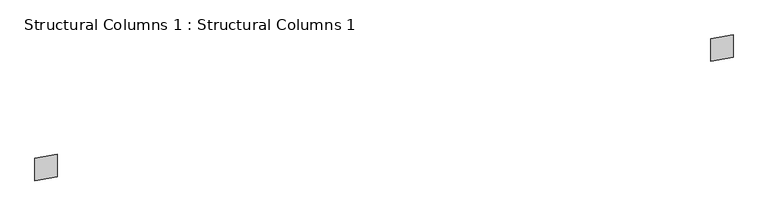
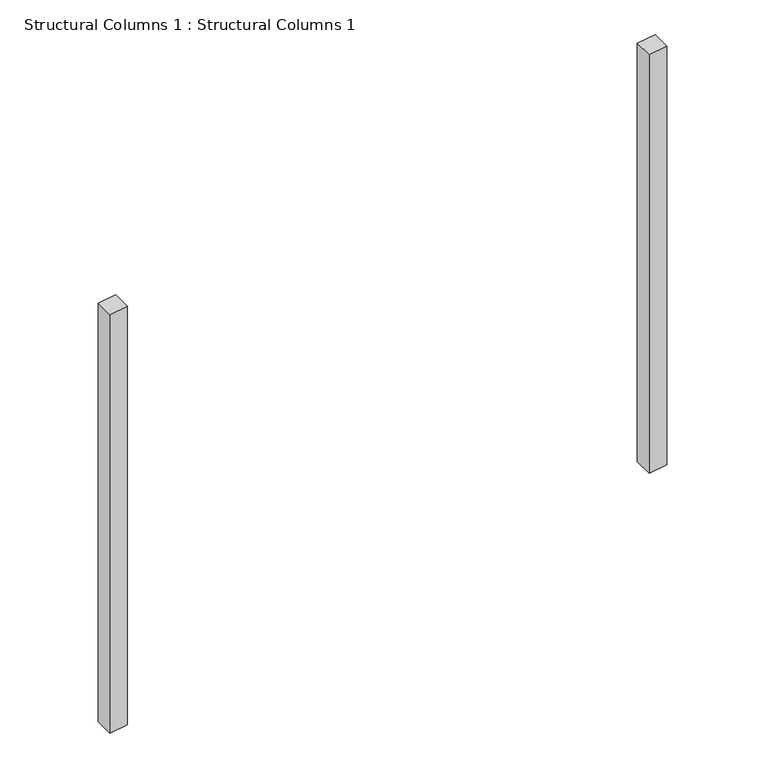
"""IFC4 building model written with IfcOpenShell, lengths in millimetres: column geometry, Structural Columns 1 : Structural Columns 1."""

from ifc_helpers import new_model, si_unit, origin, place, context, project, spatial, faceted_brep, source, transform, mapped, element, save


def structural_columns_1_structural_columns_1_03e0f4f6(model_context):
    return source(origin(), model_context, "Body", "Brep", [
        faceted_brep([(-3649.3384937, 12555.7613256, 5000.0), (-3899.3384937, 12511.6795804, 5000.0), (-3899.3384937, 12257.8229274, 5000.0), (-3649.3384937, 12301.9046726, 5000.0), (-3649.3384937, 12555.7613256, -600.0), (-3649.3384937, 12301.9046726, -600.0), (-3899.3384937, 12257.8229274, -600.0), (-3899.3384937, 12511.6795804, -600.0), (-3649.3384937, 12555.7613256, 4800.0), (-3649.3384937, 12555.7613256, -100.0), (-3649.3384937, 12555.7613256, -300.0), (-3899.3384937, 12511.6795804, -100.0), (-3899.3384937, 12257.8229274, -300.0), (-3899.3384937, 12257.8229274, -100.0), (-3899.3384937, 12257.8229274, 4800.0), (-3649.3384937, 12301.9046726, -300.0), (-3649.3384937, 12301.9046726, -100.0), (-3649.3384937, 12301.9046726, 4800.0)], [[[0, 1, 2, 3]], [[4, 5, 6, 7]], [[1, 0, 8, 9, 10, 4, 7, 11]], [[2, 1, 11, 7, 6, 12, 13, 14]], [[3, 2, 14, 13, 12, 6, 5, 15, 16, 17]], [[0, 3, 17, 16, 15, 5, 4, 10, 9, 8]]]),
        faceted_brep([(3950.6615063, 13895.8463789, 5000.0), (3700.6615063, 13851.7646338, 5000.0), (3700.6615063, 13597.9079808, 5000.0), (3950.6615063, 13641.989726, 5000.0), (3950.6615063, 13895.8463789, -600.0), (3950.6615063, 13641.989726, -600.0), (3700.6615063, 13597.9079808, -600.0), (3700.6615063, 13851.7646338, -600.0), (3950.6615063, 13895.8463789, 4800.0), (3950.6615063, 13895.8463789, -100.0), (3950.6615063, 13895.8463789, -300.0), (3700.6615063, 13851.7646338, -300.0), (3700.6615063, 13851.7646338, -100.0), (3700.6615063, 13851.7646338, 4800.0), (3700.6615063, 13597.9079808, -300.0), (3700.6615063, 13597.9079808, -100.0), (3700.6615063, 13597.9079808, 4800.0), (3950.6615063, 13641.989726, -300.0), (3950.6615063, 13641.989726, -100.0), (3950.6615063, 13641.989726, 4800.0)], [[[0, 1, 2, 3]], [[4, 5, 6, 7]], [[1, 0, 8, 9, 10, 4, 7, 11, 12, 13]], [[2, 1, 13, 12, 11, 7, 6, 14, 15, 16]], [[3, 2, 16, 15, 14, 6, 5, 17, 18, 19]], [[0, 3, 19, 18, 17, 5, 4, 10, 9, 8]]]),
    ])


if __name__ == "__main__":
    model = new_model("IFC4")
    model_context = context("Model", 3, world=origin())
    ifc_project = project(units=[si_unit("LENGTHUNIT", "METRE", prefix="MILLI")], contexts=[model_context])
    site = spatial("IfcSite", under=ifc_project)
    building = spatial("IfcBuilding", under=site)
    placement = place(None, origin())
    structural_columns_1_structural_columns_1_shape = structural_columns_1_structural_columns_1_03e0f4f6(model_context)
    element("IfcColumn", 1, ObjectType="Structural Columns 1 : Structural Columns 1", at=placement, inside=building, context=model_context, shape_type="MappedRepresentation", body=[
        mapped(structural_columns_1_structural_columns_1_shape, transform((0.0, 0.0, 0.0), x_axis=(1.0, 0.0, 0.0), y_axis=(0.0, 1.0, 0.0), z_axis=(0.0, 0.0, 1.0))),
    ])
    save(model, "model.ifc")
